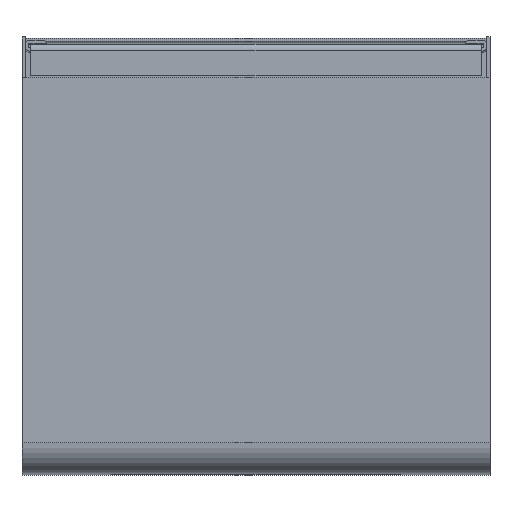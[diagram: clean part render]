
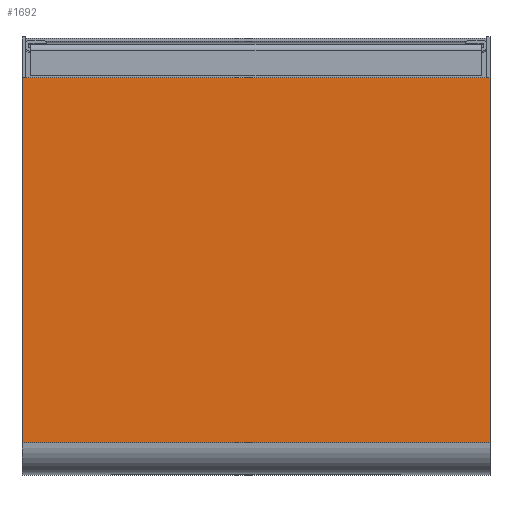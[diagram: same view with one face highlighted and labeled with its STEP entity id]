
A CAD part, top view. The second image highlights one B-rep face of the part: STEP entity #1692.
In plain terms, the highlighted planar face has unit normal (0, 0, 1).
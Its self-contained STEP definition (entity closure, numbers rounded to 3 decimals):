
#160 = PLANE('',#161);
#161 = AXIS2_PLACEMENT_3D('',#162,#163,#164);
#162 = CARTESIAN_POINT('',(300.,46.896,309.873));
#163 = DIRECTION('',(-1.,-0.,-0.));
#164 = DIRECTION('',(0.,0.,-1.));
#188 = CYLINDRICAL_SURFACE('',#189,20.);
#189 = AXIS2_PLACEMENT_3D('',#190,#191,#192);
#190 = CARTESIAN_POINT('',(0.,20.,440.));
#191 = DIRECTION('',(-1.,0.,0.));
#192 = DIRECTION('',(0.,-1.,0.));
#214 = PLANE('',#215);
#215 = AXIS2_PLACEMENT_3D('',#216,#217,#218);
#216 = CARTESIAN_POINT('',(0.,46.896,309.873));
#217 = DIRECTION('',(-1.,-0.,-0.));
#218 = DIRECTION('',(0.,0.,-1.));
#681 = VERTEX_POINT('',#682);
#682 = CARTESIAN_POINT('',(0.,20.,460.));
#704 = EDGE_CURVE('',#681,#705,#707,.T.);
#705 = VERTEX_POINT('',#706);
#706 = CARTESIAN_POINT('',(0.,254.,460.));
#707 = SURFACE_CURVE('',#708,(#712,#719),.PCURVE_S1.);
#708 = LINE('',#709,#710);
#709 = CARTESIAN_POINT('',(0.,20.,460.));
#710 = VECTOR('',#711,1.);
#711 = DIRECTION('',(0.,1.,0.));
#712 = PCURVE('',#214,#713);
#713 = DEFINITIONAL_REPRESENTATION('',(#714),#718);
#714 = LINE('',#715,#716);
#715 = CARTESIAN_POINT('',(-150.127,26.896));
#716 = VECTOR('',#717,1.);
#717 = DIRECTION('',(0.,-1.));
#718 = ( GEOMETRIC_REPRESENTATION_CONTEXT(2) 
PARAMETRIC_REPRESENTATION_CONTEXT() REPRESENTATION_CONTEXT('2D SPACE',''
  ) );
#719 = PCURVE('',#720,#725);
#720 = PLANE('',#721);
#721 = AXIS2_PLACEMENT_3D('',#722,#723,#724);
#722 = CARTESIAN_POINT('',(0.,20.,460.));
#723 = DIRECTION('',(0.,0.,1.));
#724 = DIRECTION('',(0.,1.,0.));
#725 = DEFINITIONAL_REPRESENTATION('',(#726),#730);
#726 = LINE('',#727,#728);
#727 = CARTESIAN_POINT('',(0.,0.));
#728 = VECTOR('',#729,1.);
#729 = DIRECTION('',(1.,0.));
#730 = ( GEOMETRIC_REPRESENTATION_CONTEXT(2) 
PARAMETRIC_REPRESENTATION_CONTEXT() REPRESENTATION_CONTEXT('2D SPACE',''
  ) );
#748 = PLANE('',#749);
#749 = AXIS2_PLACEMENT_3D('',#750,#751,#752);
#750 = CARTESIAN_POINT('',(0.,254.,460.));
#751 = DIRECTION('',(-0.,1.,0.));
#752 = DIRECTION('',(0.,0.,-1.));
#848 = VERTEX_POINT('',#849);
#849 = CARTESIAN_POINT('',(300.,20.,460.));
#871 = EDGE_CURVE('',#848,#872,#874,.T.);
#872 = VERTEX_POINT('',#873);
#873 = CARTESIAN_POINT('',(300.,254.,460.));
#874 = SURFACE_CURVE('',#875,(#879,#886),.PCURVE_S1.);
#875 = LINE('',#876,#877);
#876 = CARTESIAN_POINT('',(300.,20.,460.));
#877 = VECTOR('',#878,1.);
#878 = DIRECTION('',(0.,1.,0.));
#879 = PCURVE('',#160,#880);
#880 = DEFINITIONAL_REPRESENTATION('',(#881),#885);
#881 = LINE('',#882,#883);
#882 = CARTESIAN_POINT('',(-150.127,26.896));
#883 = VECTOR('',#884,1.);
#884 = DIRECTION('',(0.,-1.));
#885 = ( GEOMETRIC_REPRESENTATION_CONTEXT(2) 
PARAMETRIC_REPRESENTATION_CONTEXT() REPRESENTATION_CONTEXT('2D SPACE',''
  ) );
#886 = PCURVE('',#720,#887);
#887 = DEFINITIONAL_REPRESENTATION('',(#888),#892);
#888 = LINE('',#889,#890);
#889 = CARTESIAN_POINT('',(0.,-300.));
#890 = VECTOR('',#891,1.);
#891 = DIRECTION('',(1.,0.));
#892 = ( GEOMETRIC_REPRESENTATION_CONTEXT(2) 
PARAMETRIC_REPRESENTATION_CONTEXT() REPRESENTATION_CONTEXT('2D SPACE',''
  ) );
#995 = EDGE_CURVE('',#681,#848,#996,.T.);
#996 = SURFACE_CURVE('',#997,(#1001,#1008),.PCURVE_S1.);
#997 = LINE('',#998,#999);
#998 = CARTESIAN_POINT('',(0.,20.,460.));
#999 = VECTOR('',#1000,1.);
#1000 = DIRECTION('',(1.,0.,0.));
#1001 = PCURVE('',#188,#1002);
#1002 = DEFINITIONAL_REPRESENTATION('',(#1003),#1007);
#1003 = LINE('',#1004,#1005);
#1004 = CARTESIAN_POINT('',(1.571,0.));
#1005 = VECTOR('',#1006,1.);
#1006 = DIRECTION('',(0.,-1.));
#1007 = ( GEOMETRIC_REPRESENTATION_CONTEXT(2) 
PARAMETRIC_REPRESENTATION_CONTEXT() REPRESENTATION_CONTEXT('2D SPACE',''
  ) );
#1008 = PCURVE('',#720,#1009);
#1009 = DEFINITIONAL_REPRESENTATION('',(#1010),#1014);
#1010 = LINE('',#1011,#1012);
#1011 = CARTESIAN_POINT('',(0.,0.));
#1012 = VECTOR('',#1013,1.);
#1013 = DIRECTION('',(0.,-1.));
#1014 = ( GEOMETRIC_REPRESENTATION_CONTEXT(2) 
PARAMETRIC_REPRESENTATION_CONTEXT() REPRESENTATION_CONTEXT('2D SPACE',''
  ) );
#1692 = ADVANCED_FACE('',(#1693),#720,.T.);
#1693 = FACE_BOUND('',#1694,.T.);
#1694 = EDGE_LOOP('',(#1695,#1696,#1697,#1718));
#1695 = ORIENTED_EDGE('',*,*,#995,.T.);
#1696 = ORIENTED_EDGE('',*,*,#871,.T.);
#1697 = ORIENTED_EDGE('',*,*,#1698,.F.);
#1698 = EDGE_CURVE('',#705,#872,#1699,.T.);
#1699 = SURFACE_CURVE('',#1700,(#1704,#1711),.PCURVE_S1.);
#1700 = LINE('',#1701,#1702);
#1701 = CARTESIAN_POINT('',(0.,254.,460.));
#1702 = VECTOR('',#1703,1.);
#1703 = DIRECTION('',(1.,0.,0.));
#1704 = PCURVE('',#720,#1705);
#1705 = DEFINITIONAL_REPRESENTATION('',(#1706),#1710);
#1706 = LINE('',#1707,#1708);
#1707 = CARTESIAN_POINT('',(234.,0.));
#1708 = VECTOR('',#1709,1.);
#1709 = DIRECTION('',(0.,-1.));
#1710 = ( GEOMETRIC_REPRESENTATION_CONTEXT(2) 
PARAMETRIC_REPRESENTATION_CONTEXT() REPRESENTATION_CONTEXT('2D SPACE',''
  ) );
#1711 = PCURVE('',#748,#1712);
#1712 = DEFINITIONAL_REPRESENTATION('',(#1713),#1717);
#1713 = LINE('',#1714,#1715);
#1714 = CARTESIAN_POINT('',(0.,0.));
#1715 = VECTOR('',#1716,1.);
#1716 = DIRECTION('',(0.,-1.));
#1717 = ( GEOMETRIC_REPRESENTATION_CONTEXT(2) 
PARAMETRIC_REPRESENTATION_CONTEXT() REPRESENTATION_CONTEXT('2D SPACE',''
  ) );
#1718 = ORIENTED_EDGE('',*,*,#704,.F.);
